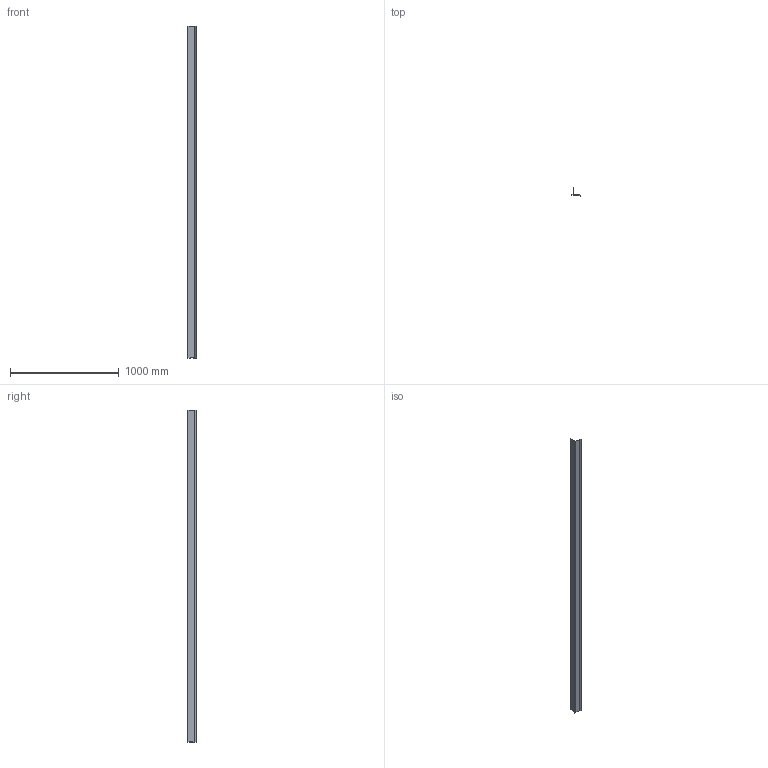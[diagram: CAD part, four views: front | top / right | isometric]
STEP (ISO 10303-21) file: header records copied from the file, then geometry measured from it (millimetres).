
FILE_DESCRIPTION (( 'STEP AP203' ), '1' );
FILE_NAME ('M56A.STEP', '2018-06-18T12:00:57', ( 'Michael Moliner' ), ( '' ), 'SwSTEP 2.0', 'SolidWorks 2018', '' );
FILE_SCHEMA (( 'CONFIG_CONTROL_DESIGN' ));
Length unit declared in the file: inch
Products named in the file (2): M56A
Bounding box: 77.13 x 75.62 x 3048 mm (x, y, z)
Volume: 344516.5 mm3; surface area: 1359687 mm2
Topology: 1 solids, 1 shells, 27 faces, 75 edges, 50 vertices
Faces by surface type: plane 16, cylinder 11
Entity records: 1028 total; most frequent: DIRECTION 155, CARTESIAN_POINT 154, ORIENTED_EDGE 150, EDGE_CURVE 75, LINE 53, VECTOR 53, AXIS2_PLACEMENT_3D 51, VERTEX_POINT 50
